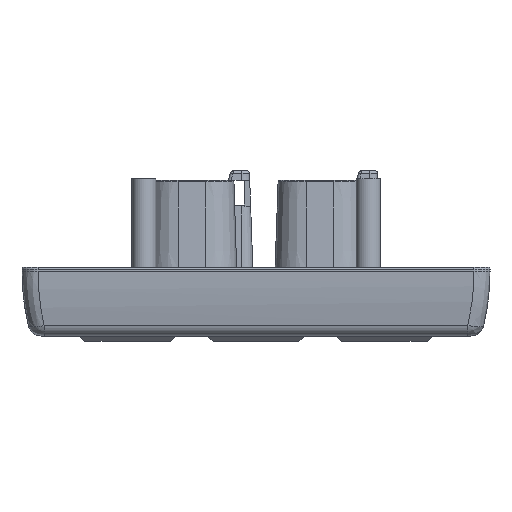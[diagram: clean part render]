
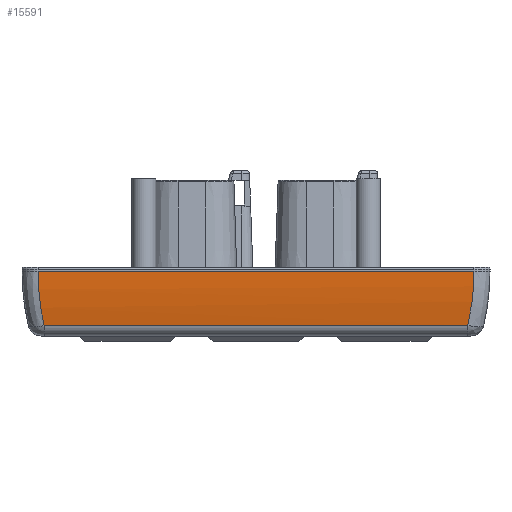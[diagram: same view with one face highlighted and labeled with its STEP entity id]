
A CAD part, front view. The second image highlights one B-rep face of the part: STEP entity #15591.
In plain terms, the highlighted cylindrical face has radius 59.69 mm (diameter 119.38 mm), a partial arc.
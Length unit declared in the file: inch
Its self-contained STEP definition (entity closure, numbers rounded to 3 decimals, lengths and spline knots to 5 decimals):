
#10954 = EDGE_CURVE ( 'NONE', #10964, #10963, #41600, .T. ) ;
#10963 = VERTEX_POINT ( 'NONE', #41591 ) ;
#10964 = VERTEX_POINT ( 'NONE', #41602 ) ;
#12452 = VERTEX_POINT ( 'NONE', #44221 ) ;
#12478 = EDGE_CURVE ( 'NONE', #12452, #12563, #44083, .T. ) ;
#12563 = VERTEX_POINT ( 'NONE', #44598 ) ;
#12653 = EDGE_CURVE ( 'NONE', #10963, #12452, #44773, .T. ) ;
#15532 = EDGE_CURVE ( 'NONE', #12563, #10964, #51085, .T. ) ;
#15546 = ORIENTED_EDGE ( 'NONE', *, *, #12478, .T. ) ;
#15580 = EDGE_LOOP ( 'NONE', ( #15881, #15546, #15602, #15584 ) ) ;
#15584 = ORIENTED_EDGE ( 'NONE', *, *, #10954, .T. ) ;
#15591 = ADVANCED_FACE ( 'NONE', ( #51386 ), #51385, .T. ) ;
#15602 = ORIENTED_EDGE ( 'NONE', *, *, #15532, .T. ) ;
#15881 = ORIENTED_EDGE ( 'NONE', *, *, #12653, .T. ) ;
#41591 = CARTESIAN_POINT ( 'NONE',  ( 1.7, -2.35, 0. ) ) ;
#41592 = DIRECTION ( 'NONE',  ( 1., 0., 0. ) ) ;
#41593 = VECTOR ( 'NONE', #41592, 39.37008 ) ;
#41599 = CARTESIAN_POINT ( 'NONE',  ( -1.825, -2.35, 0. ) ) ;
#41600 = LINE ( 'NONE', #41599, #41593 ) ;
#41602 = CARTESIAN_POINT ( 'NONE',  ( -1.7, -2.35, 0. ) ) ;
#44081 = VECTOR ( 'NONE', #44096, 39.37008 ) ;
#44082 = CARTESIAN_POINT ( 'NONE',  ( -1.825, -2.31143, 0.42404 ) ) ;
#44083 = LINE ( 'NONE', #44082, #44081 ) ;
#44096 = DIRECTION ( 'NONE',  ( -1., 0., 0. ) ) ;
#44221 = CARTESIAN_POINT ( 'NONE',  ( 1.65191, -2.31143, 0.42404 ) ) ;
#44598 = CARTESIAN_POINT ( 'NONE',  ( -1.65191, -2.31143, 0.42404 ) ) ;
#44762 = CARTESIAN_POINT ( 'NONE',  ( 1.65191, -2.31143, 0.42404 ) ) ;
#44763 = CARTESIAN_POINT ( 'NONE',  ( 1.65981, -2.31773, 0.3897 ) ) ;
#44767 = CARTESIAN_POINT ( 'NONE',  ( 1.66677, -2.32329, 0.35506 ) ) ;
#44768 = CARTESIAN_POINT ( 'NONE',  ( 1.67877, -2.33291, 0.28513 ) ) ;
#44769 = CARTESIAN_POINT ( 'NONE',  ( 1.68381, -2.33696, 0.24978 ) ) ;
#44770 = CARTESIAN_POINT ( 'NONE',  ( 1.69593, -2.34671, 0.14327 ) ) ;
#44771 = CARTESIAN_POINT ( 'NONE',  ( 1.7, -2.35, 0.07185 ) ) ;
#44772 = CARTESIAN_POINT ( 'NONE',  ( 1.7, -2.35, 0. ) ) ;
#44773 = B_SPLINE_CURVE_WITH_KNOTS ( 'NONE', 3,
 ( #44772, #44771, #44770, #44769, #44768, #44767, #44763, #44762 ),
 .UNSPECIFIED., .F., .F.,
 ( 4, 2, 2, 4 ),
 ( 0., 0.00546, 0.00819, 0.01091 ),
 .UNSPECIFIED. ) ;
#51072 = CARTESIAN_POINT ( 'NONE',  ( -1.7, -2.35, 0. ) ) ;
#51073 = CARTESIAN_POINT ( 'NONE',  ( -1.7, -2.35, 0.07185 ) ) ;
#51074 = CARTESIAN_POINT ( 'NONE',  ( -1.69593, -2.34671, 0.14327 ) ) ;
#51075 = CARTESIAN_POINT ( 'NONE',  ( -1.68381, -2.33696, 0.24978 ) ) ;
#51076 = CARTESIAN_POINT ( 'NONE',  ( -1.67877, -2.33291, 0.28513 ) ) ;
#51077 = CARTESIAN_POINT ( 'NONE',  ( -1.66677, -2.32329, 0.35506 ) ) ;
#51078 = CARTESIAN_POINT ( 'NONE',  ( -1.65981, -2.31773, 0.3897 ) ) ;
#51079 = CARTESIAN_POINT ( 'NONE',  ( -1.65191, -2.31143, 0.42404 ) ) ;
#51085 = B_SPLINE_CURVE_WITH_KNOTS ( 'NONE', 3,
 ( #51079, #51078, #51077, #51076, #51075, #51074, #51073, #51072 ),
 .UNSPECIFIED., .F., .F.,
 ( 4, 2, 2, 4 ),
 ( 0.00218, 0.00491, 0.00764, 0.01309 ),
 .UNSPECIFIED. ) ;
#51235 = DIRECTION ( 'NONE',  ( 0., 0., -1. ) ) ;
#51242 = DIRECTION ( 'NONE',  ( 1., 0., 0. ) ) ;
#51243 = CARTESIAN_POINT ( 'NONE',  ( -1.825, 0., 0. ) ) ;
#51385 = CYLINDRICAL_SURFACE ( 'NONE', #51387, 2.35 ) ;
#51386 = FACE_OUTER_BOUND ( 'NONE', #15580, .T. ) ;
#51387 = AXIS2_PLACEMENT_3D ( 'NONE', #51243, #51242, #51235 ) ;
